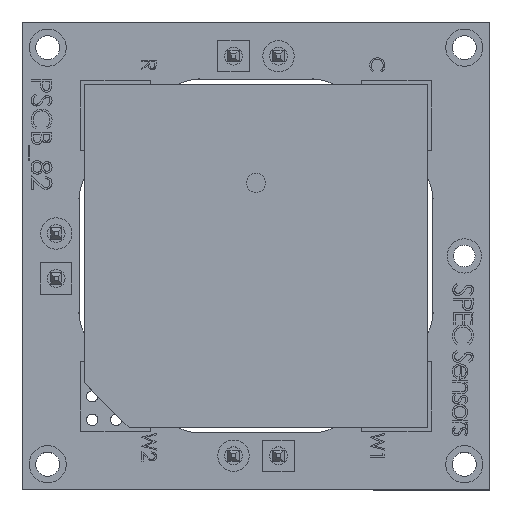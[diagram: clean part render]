
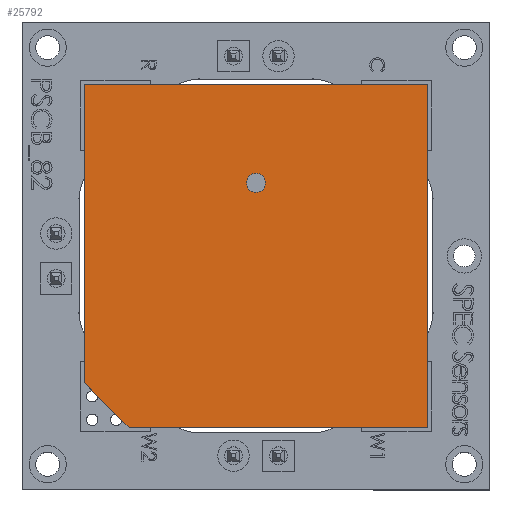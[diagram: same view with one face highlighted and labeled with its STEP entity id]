
A CAD part, top view. The second image highlights one B-rep face of the part: STEP entity #25792.
In plain terms, the highlighted planar face has unit normal (0, 0, 1).
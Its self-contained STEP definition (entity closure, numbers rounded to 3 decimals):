
#376 = CIRCLE ( 'NONE', #28160, 0.425 ) ;
#408 = DIRECTION ( 'NONE',  ( 0., 0., 1. ) ) ;
#753 = ORIENTED_EDGE ( 'NONE', *, *, #28521, .T. ) ;
#3190 = FACE_OUTER_BOUND ( 'NONE', #26157, .T. ) ;
#3206 = DIRECTION ( 'NONE',  ( 1., 0., 0. ) ) ;
#3267 = LINE ( 'NONE', #28770, #17237 ) ;
#4793 = VERTEX_POINT ( 'NONE', #26216 ) ;
#5406 = VECTOR ( 'NONE', #20002, 1000. ) ;
#6427 = DIRECTION ( 'NONE',  ( 0., 0., 1. ) ) ;
#7046 = VECTOR ( 'NONE', #19064, 1000. ) ;
#7432 = ORIENTED_EDGE ( 'NONE', *, *, #13505, .T. ) ;
#7667 = CARTESIAN_POINT ( 'NONE',  ( -18.012, 7.089, 1.648 ) ) ;
#7730 = DIRECTION ( 'NONE',  ( 0.707, -0.707, 0. ) ) ;
#7971 = CARTESIAN_POINT ( 'NONE',  ( -20.012, 9.089, 1.648 ) ) ;
#8873 = DIRECTION ( 'NONE',  ( 0., -1., 0. ) ) ;
#9676 = ORIENTED_EDGE ( 'NONE', *, *, #31113, .T. ) ;
#10016 = CARTESIAN_POINT ( 'NONE',  ( -20.012, 22.389, 1.648 ) ) ;
#11717 = AXIS2_PLACEMENT_3D ( 'NONE', #34241, #408, #3206 ) ;
#12202 = CARTESIAN_POINT ( 'NONE',  ( -12.362, 17.989, 1.648 ) ) ;
#13505 = EDGE_CURVE ( 'NONE', #23643, #26902, #3267, .T. ) ;
#13822 = EDGE_CURVE ( 'NONE', #28009, #23643, #18541, .T. ) ;
#16459 = VERTEX_POINT ( 'NONE', #33556 ) ;
#16480 = LINE ( 'NONE', #25588, #32120 ) ;
#17052 = CARTESIAN_POINT ( 'NONE',  ( -20.012, 9.089, 1.648 ) ) ;
#17237 = VECTOR ( 'NONE', #8873, 1000. ) ;
#18541 = LINE ( 'NONE', #28376, #5406 ) ;
#19009 = CARTESIAN_POINT ( 'NONE',  ( -4.712, 22.389, 1.648 ) ) ;
#19064 = DIRECTION ( 'NONE',  ( 1., 0., 0. ) ) ;
#19621 = EDGE_CURVE ( 'NONE', #26902, #4793, #25702, .T. ) ;
#20002 = DIRECTION ( 'NONE',  ( -1., 0., 0. ) ) ;
#20004 = VECTOR ( 'NONE', #7730, 1000. ) ;
#20546 = EDGE_CURVE ( 'NONE', #28206, #28206, #376, .T. ) ;
#23643 = VERTEX_POINT ( 'NONE', #10016 ) ;
#24045 = ORIENTED_EDGE ( 'NONE', *, *, #19621, .T. ) ;
#25588 = CARTESIAN_POINT ( 'NONE',  ( -4.712, 22.389, 1.648 ) ) ;
#25702 = LINE ( 'NONE', #7971, #20004 ) ;
#25792 = ADVANCED_FACE ( 'NONE', ( #30210, #3190 ), #34123, .T. ) ;
#26157 = EDGE_LOOP ( 'NONE', ( #753, #31882, #7432, #24045, #9676 ) ) ;
#26216 = CARTESIAN_POINT ( 'NONE',  ( -18.012, 7.089, 1.648 ) ) ;
#26902 = VERTEX_POINT ( 'NONE', #17052 ) ;
#27770 = EDGE_LOOP ( 'NONE', ( #32954 ) ) ;
#28009 = VERTEX_POINT ( 'NONE', #19009 ) ;
#28160 = AXIS2_PLACEMENT_3D ( 'NONE', #12202, #6427, #31664 ) ;
#28206 = VERTEX_POINT ( 'NONE', #35126 ) ;
#28364 = DIRECTION ( 'NONE',  ( 0., 1., 0. ) ) ;
#28376 = CARTESIAN_POINT ( 'NONE',  ( -20.012, 22.389, 1.648 ) ) ;
#28521 = EDGE_CURVE ( 'NONE', #16459, #28009, #16480, .T. ) ;
#28770 = CARTESIAN_POINT ( 'NONE',  ( -20.012, 22.389, 1.648 ) ) ;
#30193 = LINE ( 'NONE', #7667, #7046 ) ;
#30210 = FACE_BOUND ( 'NONE', #27770, .T. ) ;
#31113 = EDGE_CURVE ( 'NONE', #4793, #16459, #30193, .T. ) ;
#31664 = DIRECTION ( 'NONE',  ( 1., 0., 0. ) ) ;
#31882 = ORIENTED_EDGE ( 'NONE', *, *, #13822, .T. ) ;
#32120 = VECTOR ( 'NONE', #28364, 1000. ) ;
#32954 = ORIENTED_EDGE ( 'NONE', *, *, #20546, .F. ) ;
#33556 = CARTESIAN_POINT ( 'NONE',  ( -4.712, 7.089, 1.648 ) ) ;
#34123 = PLANE ( 'NONE',  #11717 ) ;
#34241 = CARTESIAN_POINT ( 'NONE',  ( 0., 0., 1.648 ) ) ;
#35126 = CARTESIAN_POINT ( 'NONE',  ( -11.937, 17.989, 1.648 ) ) ;
